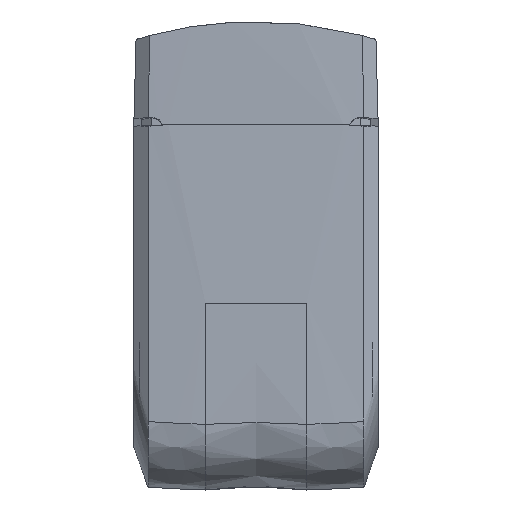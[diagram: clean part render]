
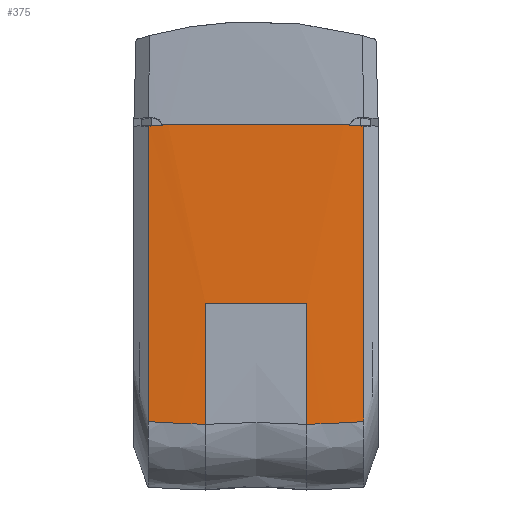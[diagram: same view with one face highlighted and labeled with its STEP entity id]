
A CAD part, left-side view. The second image highlights one B-rep face of the part: STEP entity #375.
In plain terms, the highlighted cylindrical face has radius 84.625 mm (diameter 169.25 mm), a partial arc.
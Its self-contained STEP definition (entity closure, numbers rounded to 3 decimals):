
#375=ADVANCED_FACE('',(#481),#457,.T.);
#457=CYLINDRICAL_SURFACE('',#1569,84.625);
#481=FACE_OUTER_BOUND('',#539,.T.);
#539=EDGE_LOOP('',(#732,#733,#734,#735,#736,#737,#738,#739,#740,#741,#742,
#743,#744,#745,#746));
#692=ELLIPSE('',#1567,117.229,84.625);
#693=ELLIPSE('',#1568,117.229,84.625);
#732=ORIENTED_EDGE('',*,*,#1238,.T.);
#733=ORIENTED_EDGE('',*,*,#1259,.T.);
#734=ORIENTED_EDGE('',*,*,#1260,.T.);
#735=ORIENTED_EDGE('',*,*,#1261,.T.);
#736=ORIENTED_EDGE('',*,*,#1252,.T.);
#737=ORIENTED_EDGE('',*,*,#1262,.F.);
#738=ORIENTED_EDGE('',*,*,#1263,.F.);
#739=ORIENTED_EDGE('',*,*,#1264,.T.);
#740=ORIENTED_EDGE('',*,*,#1265,.T.);
#741=ORIENTED_EDGE('',*,*,#1266,.T.);
#742=ORIENTED_EDGE('',*,*,#1267,.T.);
#743=ORIENTED_EDGE('',*,*,#1268,.T.);
#744=ORIENTED_EDGE('',*,*,#1269,.F.);
#745=ORIENTED_EDGE('',*,*,#1270,.F.);
#746=ORIENTED_EDGE('',*,*,#1271,.F.);
#1093=VERTEX_POINT('',#1924);
#1094=VERTEX_POINT('',#1929);
#1107=VERTEX_POINT('',#1980);
#1108=VERTEX_POINT('',#1985);
#1114=VERTEX_POINT('',#2013);
#1115=VERTEX_POINT('',#2018);
#1116=VERTEX_POINT('',#2034);
#1117=VERTEX_POINT('',#2039);
#1118=VERTEX_POINT('',#2041);
#1119=VERTEX_POINT('',#2046);
#1120=VERTEX_POINT('',#2051);
#1121=VERTEX_POINT('',#2056);
#1122=VERTEX_POINT('',#2058);
#1123=VERTEX_POINT('',#2063);
#1124=VERTEX_POINT('',#2068);
#1238=EDGE_CURVE('',#1094,#1093,#1426,.T.);
#1252=EDGE_CURVE('',#1108,#1107,#1435,.T.);
#1259=EDGE_CURVE('',#1093,#1114,#1438,.T.);
#1260=EDGE_CURVE('',#1114,#1115,#1439,.T.);
#1261=EDGE_CURVE('',#1115,#1108,#1440,.T.);
#1262=EDGE_CURVE('',#1116,#1107,#1441,.T.);
#1263=EDGE_CURVE('',#1117,#1116,#1442,.T.);
#1264=EDGE_CURVE('',#1117,#1118,#692,.T.);
#1265=EDGE_CURVE('',#1118,#1119,#1443,.T.);
#1266=EDGE_CURVE('',#1119,#1120,#1444,.T.);
#1267=EDGE_CURVE('',#1120,#1121,#1445,.T.);
#1268=EDGE_CURVE('',#1121,#1122,#693,.T.);
#1269=EDGE_CURVE('',#1123,#1122,#1446,.T.);
#1270=EDGE_CURVE('',#1124,#1123,#1447,.T.);
#1271=EDGE_CURVE('',#1094,#1124,#1448,.T.);
#1426=B_SPLINE_CURVE_WITH_KNOTS('',3,(#1925,#1926,#1927,#1928),
 .UNSPECIFIED.,.F.,.F.,(4,4),(0.,1.),.UNSPECIFIED.);
#1435=B_SPLINE_CURVE_WITH_KNOTS('',3,(#1981,#1982,#1983,#1984),
 .UNSPECIFIED.,.F.,.F.,(4,4),(0.,1.),.UNSPECIFIED.);
#1438=B_SPLINE_CURVE_WITH_KNOTS('',3,(#2009,#2010,#2011,#2012),
 .UNSPECIFIED.,.F.,.F.,(4,4),(0.,1.),.UNSPECIFIED.);
#1439=B_SPLINE_CURVE_WITH_KNOTS('',3,(#2014,#2015,#2016,#2017),
 .UNSPECIFIED.,.F.,.F.,(4,4),(0.,1.),.UNSPECIFIED.);
#1440=B_SPLINE_CURVE_WITH_KNOTS('',3,(#2019,#2020,#2021,#2022),
 .UNSPECIFIED.,.F.,.F.,(4,4),(0.,1.),.UNSPECIFIED.);
#1441=B_SPLINE_CURVE_WITH_KNOTS('',3,(#2023,#2024,#2025,#2026,#2027,#2028,
#2029,#2030,#2031,#2032,#2033),.UNSPECIFIED.,.F.,.F.,(4,1,1,1,1,1,1,1,4),
(0.,0.,0.008,0.017,0.049,
0.082,0.213,0.475,1.),
 .UNSPECIFIED.);
#1442=B_SPLINE_CURVE_WITH_KNOTS('',3,(#2035,#2036,#2037,#2038),
 .UNSPECIFIED.,.F.,.F.,(4,4),(0.,1.),.UNSPECIFIED.);
#1443=B_SPLINE_CURVE_WITH_KNOTS('',3,(#2042,#2043,#2044,#2045),
 .UNSPECIFIED.,.F.,.F.,(4,4),(0.,1.),.UNSPECIFIED.);
#1444=B_SPLINE_CURVE_WITH_KNOTS('',3,(#2047,#2048,#2049,#2050),
 .UNSPECIFIED.,.F.,.F.,(4,4),(0.,1.),.UNSPECIFIED.);
#1445=B_SPLINE_CURVE_WITH_KNOTS('',3,(#2052,#2053,#2054,#2055),
 .UNSPECIFIED.,.F.,.F.,(4,4),(0.,1.),.UNSPECIFIED.);
#1446=B_SPLINE_CURVE_WITH_KNOTS('',3,(#2059,#2060,#2061,#2062),
 .UNSPECIFIED.,.F.,.F.,(4,4),(0.,1.),.UNSPECIFIED.);
#1447=B_SPLINE_CURVE_WITH_KNOTS('',3,(#2064,#2065,#2066,#2067),
 .UNSPECIFIED.,.F.,.F.,(4,4),(0.,1.),.UNSPECIFIED.);
#1448=B_SPLINE_CURVE_WITH_KNOTS('',3,(#2069,#2070,#2071,#2072,#2073,#2074,
#2075,#2076),.UNSPECIFIED.,.F.,.F.,(4,2,2,4),(0.,0.5,0.75,1.),
 .UNSPECIFIED.);
#1567=AXIS2_PLACEMENT_3D('',#2040,#1696,#1697);
#1568=AXIS2_PLACEMENT_3D('',#2057,#1698,#1699);
#1569=AXIS2_PLACEMENT_3D('',#2077,#1700,#1701);
#1696=DIRECTION('',(-0.692,0.,0.722));
#1697=DIRECTION('',(-0.722,0.,-0.692));
#1698=DIRECTION('',(-0.692,0.,0.722));
#1699=DIRECTION('',(-0.722,0.,-0.692));
#1700=DIRECTION('',(0.,0.,1.));
#1701=DIRECTION('',(0.,1.,0.));
#1924=CARTESIAN_POINT('',(-43.852,-5.001,19.484));
#1925=CARTESIAN_POINT('',(-43.804,-5.75,19.478));
#1926=CARTESIAN_POINT('',(-43.821,-5.5,19.48));
#1927=CARTESIAN_POINT('',(-43.837,-5.251,19.482));
#1928=CARTESIAN_POINT('',(-43.852,-5.001,19.484));
#1929=CARTESIAN_POINT('',(-43.804,-5.75,19.478));
#1980=CARTESIAN_POINT('',(-43.804,5.75,19.478));
#1981=CARTESIAN_POINT('',(-43.852,5.001,19.484));
#1982=CARTESIAN_POINT('',(-43.837,5.251,19.482));
#1983=CARTESIAN_POINT('',(-43.821,5.5,19.48));
#1984=CARTESIAN_POINT('',(-43.804,5.75,19.478));
#1985=CARTESIAN_POINT('',(-43.852,5.001,19.484));
#2009=CARTESIAN_POINT('',(-43.852,-5.001,19.484));
#2010=CARTESIAN_POINT('',(-43.859,-4.892,19.484));
#2011=CARTESIAN_POINT('',(-43.865,-4.782,19.485));
#2012=CARTESIAN_POINT('',(-43.871,-4.673,19.486));
#2013=CARTESIAN_POINT('',(-43.871,-4.673,19.486));
#2014=CARTESIAN_POINT('',(-43.871,-4.673,19.486));
#2015=CARTESIAN_POINT('',(-44.043,-1.561,19.505));
#2016=CARTESIAN_POINT('',(-44.043,1.561,19.505));
#2017=CARTESIAN_POINT('',(-43.871,4.673,19.486));
#2018=CARTESIAN_POINT('',(-43.871,4.673,19.486));
#2019=CARTESIAN_POINT('',(-43.871,4.673,19.486));
#2020=CARTESIAN_POINT('',(-43.865,4.782,19.485));
#2021=CARTESIAN_POINT('',(-43.859,4.892,19.484));
#2022=CARTESIAN_POINT('',(-43.852,5.001,19.484));
#2023=CARTESIAN_POINT('',(-43.804,5.75,3.7));
#2024=CARTESIAN_POINT('',(-43.804,5.75,3.701));
#2025=CARTESIAN_POINT('',(-43.805,5.75,3.739));
#2026=CARTESIAN_POINT('',(-43.804,5.75,3.815));
#2027=CARTESIAN_POINT('',(-43.804,5.75,4.041));
#2028=CARTESIAN_POINT('',(-43.804,5.75,4.383));
#2029=CARTESIAN_POINT('',(-43.805,5.75,5.308));
#2030=CARTESIAN_POINT('',(-43.805,5.75,7.38));
#2031=CARTESIAN_POINT('',(-43.804,5.75,12.138));
#2032=CARTESIAN_POINT('',(-43.804,5.75,16.547));
#2033=CARTESIAN_POINT('',(-43.804,5.75,19.478));
#2034=CARTESIAN_POINT('',(-43.804,5.75,3.7));
#2035=CARTESIAN_POINT('',(-43.804,5.75,3.687));
#2036=CARTESIAN_POINT('',(-43.804,5.75,3.692));
#2037=CARTESIAN_POINT('',(-43.804,5.75,3.696));
#2038=CARTESIAN_POINT('',(-43.804,5.75,3.7));
#2039=CARTESIAN_POINT('',(-43.804,5.75,3.687));
#2040=CARTESIAN_POINT('',(40.625,0.,84.625));
#2041=CARTESIAN_POINT('',(-43.957,2.7,3.541));
#2042=CARTESIAN_POINT('',(-43.957,2.7,3.541));
#2043=CARTESIAN_POINT('',(-43.957,2.7,5.694));
#2044=CARTESIAN_POINT('',(-43.957,2.7,7.847));
#2045=CARTESIAN_POINT('',(-43.957,2.7,10.));
#2046=CARTESIAN_POINT('',(-43.957,2.7,10.));
#2047=CARTESIAN_POINT('',(-43.957,2.7,10.));
#2048=CARTESIAN_POINT('',(-44.014,0.901,10.));
#2049=CARTESIAN_POINT('',(-44.014,-0.901,10.));
#2050=CARTESIAN_POINT('',(-43.957,-2.7,10.));
#2051=CARTESIAN_POINT('',(-43.957,-2.7,10.));
#2052=CARTESIAN_POINT('',(-43.957,-2.7,9.998));
#2053=CARTESIAN_POINT('',(-43.957,-2.7,7.846));
#2054=CARTESIAN_POINT('',(-43.957,-2.7,5.693));
#2055=CARTESIAN_POINT('',(-43.957,-2.7,3.541));
#2056=CARTESIAN_POINT('',(-43.957,-2.7,3.541));
#2057=CARTESIAN_POINT('',(40.625,0.,84.625));
#2058=CARTESIAN_POINT('',(-43.804,-5.75,3.687));
#2059=CARTESIAN_POINT('',(-43.804,-5.75,3.697));
#2060=CARTESIAN_POINT('',(-43.804,-5.75,3.694));
#2061=CARTESIAN_POINT('',(-43.804,-5.75,3.691));
#2062=CARTESIAN_POINT('',(-43.804,-5.75,3.687));
#2063=CARTESIAN_POINT('',(-43.804,-5.75,3.697));
#2064=CARTESIAN_POINT('',(-43.804,-5.75,3.951));
#2065=CARTESIAN_POINT('',(-43.804,-5.75,3.826));
#2066=CARTESIAN_POINT('',(-43.804,-5.75,3.741));
#2067=CARTESIAN_POINT('',(-43.804,-5.75,3.697));
#2068=CARTESIAN_POINT('',(-43.804,-5.75,3.951));
#2069=CARTESIAN_POINT('',(-43.804,-5.75,19.478));
#2070=CARTESIAN_POINT('',(-43.804,-5.75,16.86));
#2071=CARTESIAN_POINT('',(-43.804,-5.751,14.236));
#2072=CARTESIAN_POINT('',(-43.805,-5.75,10.454));
#2073=CARTESIAN_POINT('',(-43.804,-5.75,9.067));
#2074=CARTESIAN_POINT('',(-43.804,-5.75,6.825));
#2075=CARTESIAN_POINT('',(-43.805,-5.747,4.915));
#2076=CARTESIAN_POINT('',(-43.804,-5.75,3.951));
#2077=CARTESIAN_POINT('',(40.625,0.,0.));
